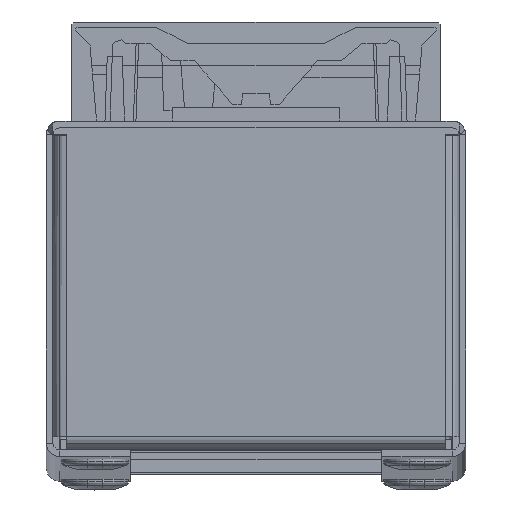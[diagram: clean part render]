
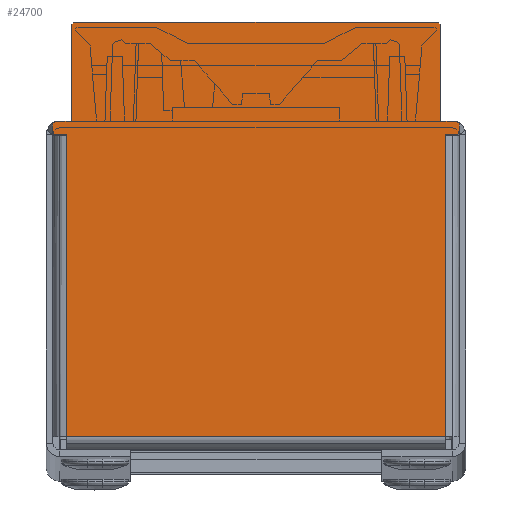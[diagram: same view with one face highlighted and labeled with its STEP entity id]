
A CAD part, top view. The second image highlights one B-rep face of the part: STEP entity #24700.
In plain terms, the highlighted planar face has unit normal (0, 0, 1).
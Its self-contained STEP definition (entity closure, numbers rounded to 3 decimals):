
#1075=PLANE('',#26538);
#2069=FACE_OUTER_BOUND('',#3435,.T.);
#3435=EDGE_LOOP('',(#19287,#19288,#19289,#19290,#19291,#19292,#19293,#19294,
#19295,#19296,#19297,#19298,#19299,#19300,#19301,#19302,#19303));
#5007=LINE('',#38907,#7603);
#5011=LINE('',#38915,#7607);
#5445=LINE('',#40111,#8041);
#5446=LINE('',#40112,#8042);
#5450=LINE('',#40129,#8046);
#5451=LINE('',#40132,#8047);
#5462=LINE('',#40155,#8058);
#5465=LINE('',#40167,#8061);
#5468=LINE('',#40176,#8064);
#5489=LINE('',#40234,#8085);
#5491=LINE('',#40238,#8087);
#5492=LINE('',#40239,#8088);
#5493=LINE('',#40240,#8089);
#7603=VECTOR('',#29839,10.);
#7607=VECTOR('',#29843,10.);
#8041=VECTOR('',#30817,10.);
#8042=VECTOR('',#30818,10.);
#8046=VECTOR('',#30836,10.);
#8047=VECTOR('',#30839,10.);
#8058=VECTOR('',#30858,10.);
#8061=VECTOR('',#30875,10.);
#8064=VECTOR('',#30884,10.);
#8085=VECTOR('',#30951,10.);
#8087=VECTOR('',#30957,10.);
#8088=VECTOR('',#30958,10.);
#8089=VECTOR('',#30959,10.);
#9785=CIRCLE('',#26506,1.531);
#9787=CIRCLE('',#26509,1.531);
#9788=CIRCLE('',#26512,0.5);
#9789=CIRCLE('',#26515,0.5);
#10746=VERTEX_POINT('',#38904);
#10747=VERTEX_POINT('',#38906);
#10750=VERTEX_POINT('',#38912);
#10751=VERTEX_POINT('',#38914);
#11235=VERTEX_POINT('',#40106);
#11236=VERTEX_POINT('',#40108);
#11237=VERTEX_POINT('',#40110);
#11240=VERTEX_POINT('',#40121);
#11243=VERTEX_POINT('',#40127);
#11244=VERTEX_POINT('',#40131);
#11252=VERTEX_POINT('',#40153);
#11254=VERTEX_POINT('',#40162);
#11255=VERTEX_POINT('',#40169);
#11256=VERTEX_POINT('',#40171);
#11257=VERTEX_POINT('',#40175);
#11258=VERTEX_POINT('',#40179);
#11264=VERTEX_POINT('',#40198);
#13532=EDGE_CURVE('',#10747,#10746,#5007,.T.);
#13536=EDGE_CURVE('',#10751,#10750,#5011,.T.);
#14137=EDGE_CURVE('',#11237,#11236,#5445,.T.);
#14138=EDGE_CURVE('',#11235,#11237,#5446,.T.);
#14147=EDGE_CURVE('',#11240,#11243,#5450,.T.);
#14148=EDGE_CURVE('',#11244,#11240,#5451,.T.);
#14160=EDGE_CURVE('',#11236,#11252,#5462,.T.);
#14162=EDGE_CURVE('',#11252,#10751,#9785,.T.);
#14165=EDGE_CURVE('',#10746,#11254,#9787,.T.);
#14167=EDGE_CURVE('',#11254,#11244,#5465,.T.);
#14169=EDGE_CURVE('',#11255,#11256,#9788,.T.);
#14171=EDGE_CURVE('',#11257,#11256,#5468,.T.);
#14173=EDGE_CURVE('',#11257,#11258,#9789,.T.);
#14202=EDGE_CURVE('',#11243,#11264,#5489,.T.);
#14204=EDGE_CURVE('',#10750,#11258,#5491,.T.);
#14205=EDGE_CURVE('',#11255,#10747,#5492,.T.);
#14206=EDGE_CURVE('',#11264,#11235,#5493,.T.);
#19287=ORIENTED_EDGE('',*,*,#13536,.T.);
#19288=ORIENTED_EDGE('',*,*,#14204,.T.);
#19289=ORIENTED_EDGE('',*,*,#14173,.F.);
#19290=ORIENTED_EDGE('',*,*,#14171,.T.);
#19291=ORIENTED_EDGE('',*,*,#14169,.F.);
#19292=ORIENTED_EDGE('',*,*,#14205,.T.);
#19293=ORIENTED_EDGE('',*,*,#13532,.T.);
#19294=ORIENTED_EDGE('',*,*,#14165,.T.);
#19295=ORIENTED_EDGE('',*,*,#14167,.T.);
#19296=ORIENTED_EDGE('',*,*,#14148,.T.);
#19297=ORIENTED_EDGE('',*,*,#14147,.T.);
#19298=ORIENTED_EDGE('',*,*,#14202,.T.);
#19299=ORIENTED_EDGE('',*,*,#14206,.T.);
#19300=ORIENTED_EDGE('',*,*,#14138,.T.);
#19301=ORIENTED_EDGE('',*,*,#14137,.T.);
#19302=ORIENTED_EDGE('',*,*,#14160,.T.);
#19303=ORIENTED_EDGE('',*,*,#14162,.T.);
#24700=ADVANCED_FACE('',(#2069),#1075,.F.);
#26506=AXIS2_PLACEMENT_3D('',#40158,#30863,#30864);
#26509=AXIS2_PLACEMENT_3D('',#40164,#30870,#30871);
#26512=AXIS2_PLACEMENT_3D('',#40172,#30879,#30880);
#26515=AXIS2_PLACEMENT_3D('',#40180,#30888,#30889);
#26538=AXIS2_PLACEMENT_3D('',#40237,#30955,#30956);
#29839=DIRECTION('',(-1.,0.,0.));
#29843=DIRECTION('',(-1.,0.,0.));
#30817=DIRECTION('',(1.,0.,0.));
#30818=DIRECTION('',(1.,0.,0.));
#30836=DIRECTION('',(0.,-1.,0.));
#30839=DIRECTION('',(1.,0.,0.));
#30858=DIRECTION('',(0.,1.,0.));
#30863=DIRECTION('center_axis',(0.,0.,
1.));
#30864=DIRECTION('ref_axis',(0.515,0.857,0.));
#30870=DIRECTION('center_axis',(0.,0.,
1.));
#30871=DIRECTION('ref_axis',(0.,1.,0.));
#30875=DIRECTION('',(0.,-1.,0.));
#30879=DIRECTION('center_axis',(0.,0.,
-1.));
#30880=DIRECTION('ref_axis',(-0.707,0.707,0.));
#30884=DIRECTION('',(-1.,0.,0.));
#30888=DIRECTION('center_axis',(0.,0.,
-1.));
#30889=DIRECTION('ref_axis',(0.707,0.707,0.));
#30951=DIRECTION('',(1.,0.,0.));
#30955=DIRECTION('center_axis',(0.,0.,
-1.));
#30956=DIRECTION('ref_axis',(-1.,0.,0.));
#30957=DIRECTION('',(0.,1.,0.));
#30958=DIRECTION('',(0.,-1.,0.));
#30959=DIRECTION('',(0.,1.,0.));
#38904=CARTESIAN_POINT('',(-23.411,0.,840.8));
#38906=CARTESIAN_POINT('',(-22.,0.,840.8));
#38907=CARTESIAN_POINT('',(-22.,0.,840.8));
#38912=CARTESIAN_POINT('',(22.,0.,840.8));
#38914=CARTESIAN_POINT('',(23.411,0.,840.8));
#38915=CARTESIAN_POINT('',(23.411,0.,840.8));
#40106=CARTESIAN_POINT('',(22.6,-1.6,840.8));
#40108=CARTESIAN_POINT('',(24.2,-1.6,840.8));
#40110=CARTESIAN_POINT('',(23.8,-1.6,840.8));
#40111=CARTESIAN_POINT('',(23.8,-1.6,840.8));
#40112=CARTESIAN_POINT('',(11.9,-1.6,840.8));
#40121=CARTESIAN_POINT('',(-22.6,-1.6,840.8));
#40127=CARTESIAN_POINT('',(-22.6,-37.6,840.8));
#40129=CARTESIAN_POINT('',(-22.6,-9.971,840.8));
#40131=CARTESIAN_POINT('',(-24.2,-1.6,840.8));
#40132=CARTESIAN_POINT('',(-24.2,-1.6,840.8));
#40153=CARTESIAN_POINT('',(24.2,-0.219,840.8));
#40155=CARTESIAN_POINT('',(24.2,-1.6,840.8));
#40158=CARTESIAN_POINT('Origin',(23.411,-1.531,840.8));
#40162=CARTESIAN_POINT('',(-24.2,-0.219,840.8));
#40164=CARTESIAN_POINT('Origin',(-23.411,-1.531,840.8));
#40167=CARTESIAN_POINT('',(-24.2,-0.219,840.8));
#40169=CARTESIAN_POINT('',(-22.,11.3,840.8));
#40171=CARTESIAN_POINT('',(-21.5,11.8,840.8));
#40172=CARTESIAN_POINT('Origin',(-21.5,11.3,840.8));
#40175=CARTESIAN_POINT('',(21.5,11.8,840.8));
#40176=CARTESIAN_POINT('',(22.,11.8,840.8));
#40179=CARTESIAN_POINT('',(22.,11.3,840.8));
#40180=CARTESIAN_POINT('Origin',(21.5,11.3,840.8));
#40198=CARTESIAN_POINT('',(22.6,-37.6,840.8));
#40234=CARTESIAN_POINT('',(-11.3,-37.6,840.8));
#40237=CARTESIAN_POINT('Origin',(0.,-18.241,
840.8));
#40238=CARTESIAN_POINT('',(22.,-0.7,840.8));
#40239=CARTESIAN_POINT('',(-22.,11.8,840.8));
#40240=CARTESIAN_POINT('',(22.6,-28.121,840.8));
